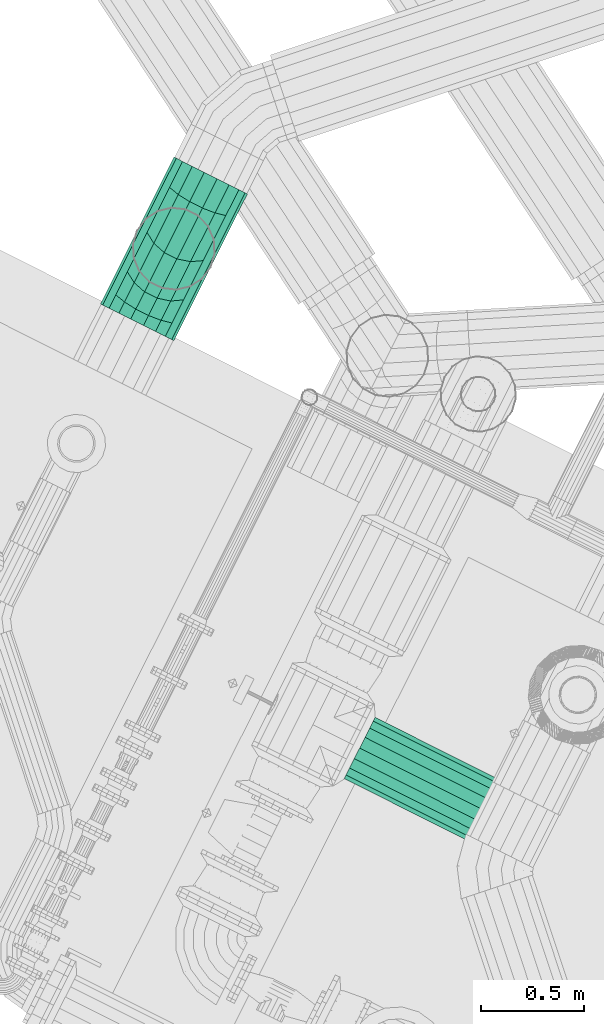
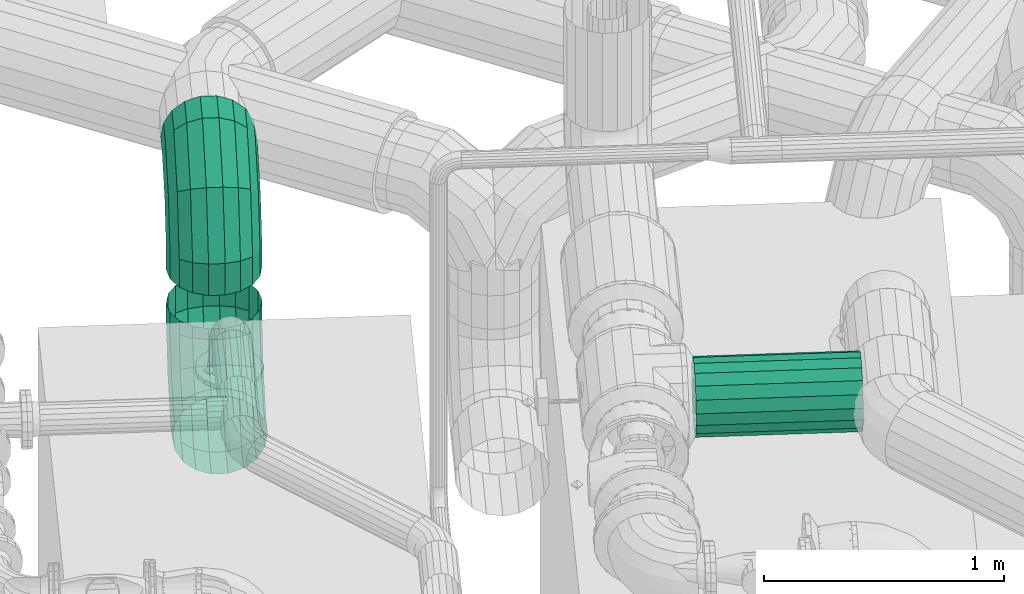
# One storey, part 12 of 206: 2 flow fittings, 1 flow segment.
"""IFC2X3 building model written with IfcOpenShell, lengths in metres."""

from ifc_helpers import new_model, si_unit, derived_unit, direction, frame, origin, place, context, subcontext, project, spatial, face_set, surface_model, source, transform, mapped, material, type_object, type_shapes, element, save


model = new_model("IFC2X3")

# Units and contexts
model_context = context("Model", 3, precision=5.2338327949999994e-05, world=origin(), true_north=direction((0.0, 1.0)))
body_context = subcontext(model_context, "Body", "Model", "MODEL_VIEW")
ifc_project = project(units=[si_unit("LENGTHUNIT", "METRE"), si_unit("AREAUNIT", "SQUARE_METRE"), si_unit("VOLUMEUNIT", "CUBIC_METRE"), si_unit("MASSUNIT", "GRAM", prefix="KILO"), si_unit("PLANEANGLEUNIT", "RADIAN"), derived_unit("THERMALTRANSMITTANCEUNIT", [(si_unit("MASSUNIT", "GRAM", prefix="KILO"), 1), (si_unit("THERMODYNAMICTEMPERATUREUNIT", "KELVIN"), -1), (si_unit("TIMEUNIT", "SECOND"), -3)])], contexts=[model_context])

# Site, building, storey
site_placement = place(None, frame((0.0, 0.0, 0.0), z_axis=(0.0, 0.0, 1.0), x_axis=(0.8939966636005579, -0.4480736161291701, 0.0)))
site = spatial("IfcSite", under=ifc_project, at=site_placement, Name="Default", CompositionType="ELEMENT")
building_placement = place(site_placement, origin())
building = spatial("IfcBuilding", under=site, at=building_placement, CompositionType="ELEMENT")
storey_placement = place(building_placement, origin())
storey = spatial("IfcBuildingStorey", under=building, at=storey_placement, Name="Erdgeschoss", CompositionType="ELEMENT", Elevation=0.0)

# Flow fittings
ifc_material_1 = material(Name="IfcSurfaceStyle #251447")
distribution_element_type_1 = type_object("IfcDistributionElementType", Name="Segmentbogen 4 teilig 278884:Segmentbogen 4 teilig 278884", material=ifc_material_1)
shared_shape_1 = source(origin(), body_context, "Body", "SurfaceModel", [
    surface_model("IfcFaceBasedSurfaceModel", [(21.240947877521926, 8.028208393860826, 1.2800000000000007), (21.25300935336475, 8.028208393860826, 1.3484040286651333), (21.25300935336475, 8.11705926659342, 1.3484040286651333), (21.240947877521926, 8.135388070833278, 1.280000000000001), (21.287738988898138, 8.028208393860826, 1.4085575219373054), (21.287738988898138, 8.10094118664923, 1.4085575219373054), (21.34094787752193, 8.028208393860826, 1.4532050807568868), (21.34094787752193, 8.088977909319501, 1.4532050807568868), (21.406218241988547, 8.028208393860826, 1.476961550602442), (21.406218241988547, 8.082612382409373, 1.476961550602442), (21.475677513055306, 8.028208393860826, 1.4769615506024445), (21.475677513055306, 8.082612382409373, 1.4769615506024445), (21.540947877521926, 8.028208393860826, 1.4532050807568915), (21.540947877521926, 8.088977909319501, 1.4532050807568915), (21.59415676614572, 8.028208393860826, 1.40855752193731), (21.59415676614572, 8.10094118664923, 1.40855752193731), (21.628886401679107, 8.028208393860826, 1.3484040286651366), (21.628886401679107, 8.117059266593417, 1.3484040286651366), (21.640947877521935, 8.028208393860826, 1.2800000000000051), (21.64094787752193, 8.135388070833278, 1.2799999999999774), (21.628886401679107, 8.028208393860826, 1.2115959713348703), (21.628886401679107, 8.153716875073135, 1.2115959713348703), (21.594156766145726, 8.028208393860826, 1.1514424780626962), (21.594156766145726, 8.169834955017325, 1.1514424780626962), (21.540947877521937, 8.028208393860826, 1.106794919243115), (21.540947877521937, 8.181798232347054, 1.106794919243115), (21.475677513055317, 8.028208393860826, 1.0830384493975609), (21.475677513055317, 8.188163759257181, 1.0830384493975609), (21.40621824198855, 8.028208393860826, 1.08303844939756), (21.40621824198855, 8.188163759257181, 1.08303844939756), (21.340947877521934, 8.028208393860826, 1.106794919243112), (21.340947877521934, 8.181798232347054, 1.106794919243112), (21.28773898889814, 8.028208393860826, 1.1514424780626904), (21.28773898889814, 8.169834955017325, 1.1514424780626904), (21.25300935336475, 8.028208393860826, 1.2115959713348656), (21.25300935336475, 8.153716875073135, 1.2115959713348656), (21.253009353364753, 8.270953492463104, 1.4372549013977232), (21.240947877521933, 8.321028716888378, 1.3871796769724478), (21.287738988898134, 8.22691807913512, 1.4812903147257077), (21.34094787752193, 8.19423379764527, 1.5139745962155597), (21.406218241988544, 8.176842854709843, 1.531365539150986), (21.475677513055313, 8.176842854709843, 1.5313655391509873), (21.540947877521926, 8.194233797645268, 1.513974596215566), (21.59415676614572, 8.22691807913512, 1.481290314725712), (21.628886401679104, 8.270953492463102, 1.4372549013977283), (21.64094787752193, 8.321028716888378, 1.3871796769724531), (21.628886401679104, 8.371103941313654, 1.3371044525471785), (21.594156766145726, 8.415139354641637, 1.2930690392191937), (21.540947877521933, 8.447823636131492, 1.2603847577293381), (21.475677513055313, 8.465214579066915, 1.2429938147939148), (21.406218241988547, 8.465214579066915, 1.2429938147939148), (21.340947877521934, 8.447823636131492, 1.2603847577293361), (21.28773898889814, 8.415139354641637, 1.293069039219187), (21.25300935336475, 8.371103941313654, 1.3371044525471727), (21.253009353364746, 8.359804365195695, 1.5911491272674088), (21.240947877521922, 8.42820839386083, 1.572820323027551), (21.287738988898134, 8.29965087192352, 1.607267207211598), (21.340947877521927, 8.255003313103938, 1.6192304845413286), (21.406218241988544, 8.231246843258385, 1.625596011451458), (21.475677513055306, 8.231246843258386, 1.6255960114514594), (21.540947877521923, 8.25500331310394, 1.61923048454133), (21.594156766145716, 8.29965087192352, 1.6072672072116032), (21.628886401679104, 8.359804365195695, 1.5911491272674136), (21.640947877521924, 8.428208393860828, 1.5728203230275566), (21.628886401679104, 8.49661242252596, 1.554491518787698), (21.59415676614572, 8.556765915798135, 1.5383734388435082), (21.540947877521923, 8.601413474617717, 1.5264101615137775), (21.475677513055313, 8.625169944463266, 1.520044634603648), (21.406218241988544, 8.625169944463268, 1.5200446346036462), (21.340947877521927, 8.601413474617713, 1.5264101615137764), (21.287738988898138, 8.556765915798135, 1.5383734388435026), (21.25300935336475, 8.496612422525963, 1.5544915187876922), (21.253009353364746, 8.359804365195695, 1.6799999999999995), (21.240947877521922, 8.428208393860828, 1.6799999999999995), (21.287738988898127, 8.29965087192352, 1.6800000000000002), (21.34094787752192, 8.255003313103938, 1.6800000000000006), (21.406218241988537, 8.231246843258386, 1.6800000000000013), (21.475677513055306, 8.231246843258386, 1.680000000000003), (21.540947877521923, 8.255003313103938, 1.680000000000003), (21.59415676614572, 8.299650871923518, 1.6800000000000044), (21.628886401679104, 8.359804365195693, 1.6800000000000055), (21.640947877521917, 8.428208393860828, 1.6800000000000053), (21.6288864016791, 8.496612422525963, 1.6800000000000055), (21.594156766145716, 8.556765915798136, 1.6800000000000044), (21.540947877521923, 8.601413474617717, 1.680000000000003), (21.475677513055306, 8.625169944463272, 1.680000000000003), (21.406218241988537, 8.62516994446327, 1.6800000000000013), (21.34094787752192, 8.601413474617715, 1.6800000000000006), (21.287738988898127, 8.556765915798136, 1.6800000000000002), (21.253009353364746, 8.496612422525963, 1.6799999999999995)], [face_set([[[0, 1, 2, 3]], [[1, 4, 5, 2]], [[4, 6, 7, 5]], [[6, 8, 9, 7]], [[8, 10, 11, 9]], [[10, 12, 13, 11]], [[12, 14, 15, 13]], [[14, 16, 17, 15]], [[16, 18, 19, 17]], [[18, 20, 21, 19]], [[20, 22, 23, 21]], [[22, 24, 25, 23]], [[24, 26, 27, 25]], [[26, 28, 29, 27]], [[28, 30, 31, 29]], [[30, 32, 33, 31]], [[32, 34, 35, 33]], [[34, 0, 3, 35]], [[3, 2, 36, 37]], [[2, 5, 38, 36]], [[5, 7, 39, 38]], [[7, 9, 40, 39]], [[9, 11, 41, 40]], [[11, 13, 42, 41]], [[13, 15, 43, 42]], [[15, 17, 44, 43]], [[17, 19, 45, 44]], [[19, 21, 46, 45]], [[21, 23, 47, 46]], [[23, 25, 48, 47]], [[25, 27, 49, 48]], [[27, 29, 50, 49]], [[29, 31, 51, 50]], [[31, 33, 52, 51]], [[33, 35, 53, 52]], [[35, 3, 37, 53]], [[37, 36, 54, 55]], [[36, 38, 56, 54]], [[38, 39, 57, 56]], [[39, 40, 58, 57]], [[40, 41, 59, 58]], [[41, 42, 60, 59]], [[42, 43, 61, 60]], [[43, 44, 62, 61]], [[44, 45, 63, 62]], [[45, 46, 64, 63]], [[46, 47, 65, 64]], [[47, 48, 66, 65]], [[48, 49, 67, 66]], [[49, 50, 68, 67]], [[50, 51, 69, 68]], [[51, 52, 70, 69]], [[52, 53, 71, 70]], [[53, 37, 55, 71]], [[55, 54, 72, 73]], [[54, 56, 74, 72]], [[56, 57, 75, 74]], [[57, 58, 76, 75]], [[58, 59, 77, 76]], [[59, 60, 78, 77]], [[60, 61, 79, 78]], [[61, 62, 80, 79]], [[62, 63, 81, 80]], [[63, 64, 82, 81]], [[64, 65, 83, 82]], [[65, 66, 84, 83]], [[66, 67, 85, 84]], [[67, 68, 86, 85]], [[68, 69, 87, 86]], [[69, 70, 88, 87]], [[70, 71, 89, 88]], [[71, 55, 73, 89]]])]),
])
type_shapes(distribution_element_type_1, [shared_shape_1])
flow_fitting_1_placement = place(storey_placement, origin())
element("IfcFlowFitting", 1, at=flow_fitting_1_placement, inside=storey, type_object=distribution_element_type_1, material=ifc_material_1, Name="Segmentbogen 4 teilig", ObjectType="Segmentbogen 4 teilig", context=body_context, shape_type="MappedRepresentation", body=[
    mapped(shared_shape_1, transform((0.0, 0.0, 0.0), scale=1.0)),
])
distribution_element_type_2 = type_object("IfcDistributionElementType", Name="Segmentbogen 4 teilig 297316:Segmentbogen 4 teilig 297316", material=ifc_material_1)
shared_shape_2 = source(origin(), body_context, "Body", "SurfaceModel", [
    surface_model("IfcFaceBasedSurfaceModel", [(21.64094787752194, 8.428208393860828, 1.849999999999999), (21.62888640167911, 8.496612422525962, 1.849999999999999), (21.62888640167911, 8.496612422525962, 1.938850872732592), (21.640947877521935, 8.42820839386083, 1.9571796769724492), (21.594156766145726, 8.556765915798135, 1.849999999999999), (21.594156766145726, 8.556765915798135, 1.9227327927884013), (21.540947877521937, 8.601413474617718, 1.849999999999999), (21.540947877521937, 8.601413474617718, 1.9107695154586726), (21.47567751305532, 8.62516994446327, 1.849999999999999), (21.47567751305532, 8.62516994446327, 1.904403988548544), (21.40621824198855, 8.625169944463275, 1.849999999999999), (21.40621824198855, 8.625169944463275, 1.904403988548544), (21.340947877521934, 8.601413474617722, 1.849999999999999), (21.340947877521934, 8.601413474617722, 1.9107695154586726), (21.28773898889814, 8.556765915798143, 1.849999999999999), (21.28773898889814, 8.556765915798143, 1.9227327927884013), (21.253009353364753, 8.496612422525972, 1.849999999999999), (21.253009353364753, 8.496612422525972, 1.93885087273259), (21.240947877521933, 8.428208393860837, 1.849999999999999), (21.240947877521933, 8.42820839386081, 1.9571796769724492), (21.253009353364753, 8.359804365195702, 1.849999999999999), (21.253009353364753, 8.359804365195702, 1.9755084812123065), (21.287738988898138, 8.299650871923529, 1.849999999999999), (21.287738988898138, 8.299650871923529, 1.9916265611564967), (21.34094787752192, 8.255003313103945, 1.849999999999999), (21.34094787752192, 8.255003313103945, 2.0035898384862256), (21.406218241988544, 8.231246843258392, 1.849999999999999), (21.406218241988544, 8.231246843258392, 2.009955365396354), (21.475677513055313, 8.23124684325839, 1.849999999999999), (21.475677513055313, 8.23124684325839, 2.009955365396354), (21.540947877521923, 8.255003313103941, 1.849999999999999), (21.540947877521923, 8.255003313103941, 2.0035898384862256), (21.59415676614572, 8.29965087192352, 1.849999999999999), (21.59415676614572, 8.29965087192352, 1.9916265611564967), (21.628886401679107, 8.359804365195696, 1.849999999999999), (21.628886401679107, 8.359804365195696, 1.9755084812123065), (21.628886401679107, 8.585463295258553, 2.092745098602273), (21.640947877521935, 8.535388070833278, 2.14282032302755), (21.594156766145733, 8.629498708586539, 2.04870968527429), (21.540947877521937, 8.662182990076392, 2.016025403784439), (21.47567751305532, 8.679573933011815, 1.9986344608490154), (21.406218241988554, 8.679573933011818, 1.9986344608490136), (21.340947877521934, 8.662182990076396, 2.0160254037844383), (21.28773898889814, 8.629498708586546, 2.0487096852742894), (21.253009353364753, 8.585463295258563, 2.0927450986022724), (21.240947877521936, 8.535388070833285, 2.1428203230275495), (21.25300935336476, 8.485312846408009, 2.1928955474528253), (21.287738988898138, 8.441277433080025, 2.23693096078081), (21.34094787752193, 8.40859315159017, 2.2696152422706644), (21.40621824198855, 8.391202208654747, 2.2870061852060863), (21.475677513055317, 8.391202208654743, 2.2870061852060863), (21.540947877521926, 8.408593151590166, 2.2696152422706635), (21.594156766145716, 8.441277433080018, 2.2369309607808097), (21.62888640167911, 8.485312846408, 2.1928955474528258), (21.62888640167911, 8.739357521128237, 2.181595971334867), (21.64094787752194, 8.721028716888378, 2.2499999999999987), (21.594156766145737, 8.755475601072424, 2.1214424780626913), (21.540947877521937, 8.767438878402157, 2.0767949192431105), (21.475677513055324, 8.773804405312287, 2.0530384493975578), (21.406218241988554, 8.773804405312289, 2.0530384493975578), (21.340947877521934, 8.767438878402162, 2.076794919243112), (21.287738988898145, 8.755475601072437, 2.1214424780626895), (21.25300935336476, 8.739357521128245, 2.1815959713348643), (21.240947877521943, 8.721028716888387, 2.2499999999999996), (21.25300935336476, 8.70269991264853, 2.3184040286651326), (21.287738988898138, 8.686581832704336, 2.37855752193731), (21.340947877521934, 8.67461855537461, 2.423205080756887), (21.406218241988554, 8.668253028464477, 2.4469615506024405), (21.47567751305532, 8.668253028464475, 2.446961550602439), (21.540947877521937, 8.674618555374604, 2.4232050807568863), (21.59415676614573, 8.68658183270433, 2.378557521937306), (21.628886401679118, 8.702699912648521, 2.318404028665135), (21.62888640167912, 8.828208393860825, 2.181595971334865), (21.64094787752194, 8.828208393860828, 2.2500000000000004), (21.594156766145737, 8.828208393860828, 2.121442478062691), (21.54094787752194, 8.828208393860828, 2.076794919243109), (21.475677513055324, 8.828208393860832, 2.0530384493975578), (21.406218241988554, 8.828208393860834, 2.0530384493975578), (21.340947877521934, 8.828208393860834, 2.076794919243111), (21.287738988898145, 8.828208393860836, 2.121442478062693), (21.253009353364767, 8.828208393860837, 2.181595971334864), (21.240947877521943, 8.828208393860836, 2.2499999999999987), (21.253009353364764, 8.828208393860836, 2.3184040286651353), (21.287738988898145, 8.828208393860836, 2.3785575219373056), (21.340947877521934, 8.828208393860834, 2.4232050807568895), (21.406218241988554, 8.828208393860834, 2.4469615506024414), (21.475677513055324, 8.828208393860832, 2.4469615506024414), (21.54094787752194, 8.828208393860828, 2.423205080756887), (21.594156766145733, 8.828208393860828, 2.378557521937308), (21.628886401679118, 8.828208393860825, 2.3184040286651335)], [face_set([[[0, 1, 2, 3]], [[1, 4, 5, 2]], [[4, 6, 7, 5]], [[6, 8, 9, 7]], [[8, 10, 11, 9]], [[10, 12, 13, 11]], [[12, 14, 15, 13]], [[14, 16, 17, 15]], [[16, 18, 19, 17]], [[18, 20, 21, 19]], [[20, 22, 23, 21]], [[22, 24, 25, 23]], [[24, 26, 27, 25]], [[26, 28, 29, 27]], [[28, 30, 31, 29]], [[30, 32, 33, 31]], [[32, 34, 35, 33]], [[34, 0, 3, 35]], [[3, 2, 36, 37]], [[2, 5, 38, 36]], [[5, 7, 39, 38]], [[7, 9, 40, 39]], [[9, 11, 41, 40]], [[11, 13, 42, 41]], [[13, 15, 43, 42]], [[15, 17, 44, 43]], [[17, 19, 45, 44]], [[19, 21, 46, 45]], [[21, 23, 47, 46]], [[23, 25, 48, 47]], [[25, 27, 49, 48]], [[27, 29, 50, 49]], [[29, 31, 51, 50]], [[31, 33, 52, 51]], [[33, 35, 53, 52]], [[35, 3, 37, 53]], [[37, 36, 54, 55]], [[36, 38, 56, 54]], [[38, 39, 57, 56]], [[39, 40, 58, 57]], [[40, 41, 59, 58]], [[41, 42, 60, 59]], [[42, 43, 61, 60]], [[43, 44, 62, 61]], [[44, 45, 63, 62]], [[45, 46, 64, 63]], [[46, 47, 65, 64]], [[47, 48, 66, 65]], [[48, 49, 67, 66]], [[49, 50, 68, 67]], [[50, 51, 69, 68]], [[51, 52, 70, 69]], [[52, 53, 71, 70]], [[53, 37, 55, 71]], [[55, 54, 72, 73]], [[54, 56, 74, 72]], [[56, 57, 75, 74]], [[57, 58, 76, 75]], [[58, 59, 77, 76]], [[59, 60, 78, 77]], [[60, 61, 79, 78]], [[61, 62, 80, 79]], [[62, 63, 81, 80]], [[63, 64, 82, 81]], [[64, 65, 83, 82]], [[65, 66, 84, 83]], [[66, 67, 85, 84]], [[67, 68, 86, 85]], [[68, 69, 87, 86]], [[69, 70, 88, 87]], [[70, 71, 89, 88]], [[71, 55, 73, 89]]])]),
])
type_shapes(distribution_element_type_2, [shared_shape_2])
flow_fitting_2_placement = place(storey_placement, origin())
element("IfcFlowFitting", 2, at=flow_fitting_2_placement, inside=storey, type_object=distribution_element_type_2, material=ifc_material_1, Name="Segmentbogen 4 teilig", ObjectType="Segmentbogen 4 teilig", context=body_context, shape_type="MappedRepresentation", body=[
    mapped(shared_shape_2, transform((0.0, 0.0, 0.0), scale=1.0)),
])

# Flow segment
ifc_material_2 = material(Name="IfcSurfaceStyle #9317")
distribution_element_type_3 = type_object("IfcDistributionElementType", Name="Stahlrohr nach DIN 2448 320803:Stahlrohr nach DIN 2448 320803", material=ifc_material_2)
shared_shape_3 = source(origin(), body_context, "Body", "SurfaceModel", [
    surface_model("IfcFaceBasedSurfaceModel", [(23.339853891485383, 6.65896109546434, 2.4238499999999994), (23.339853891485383, 6.635070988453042, 2.419637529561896), (24.03782169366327, 6.635070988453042, 2.419637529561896), (24.03782169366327, 6.658961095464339, 2.423849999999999), (23.339853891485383, 6.614062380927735, 2.4075082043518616), (24.03782169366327, 6.614062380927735, 2.407508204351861), (23.339853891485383, 6.598469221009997, 2.388925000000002), (24.03782169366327, 6.598469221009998, 2.3889250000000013), (23.339853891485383, 6.590172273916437, 2.3661293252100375), (24.03782169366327, 6.590172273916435, 2.366129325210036), (23.339853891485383, 6.590172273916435, 2.341870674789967), (24.03782169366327, 6.590172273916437, 2.3418706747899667), (23.339853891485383, 6.598469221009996, 2.319075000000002), (24.03782169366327, 6.598469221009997, 2.319075), (23.339853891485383, 6.614062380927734, 2.3004917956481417), (24.03782169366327, 6.614062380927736, 2.3004917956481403), (23.339853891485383, 6.63507098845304, 2.2883624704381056), (24.03782169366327, 6.635070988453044, 2.2883624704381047), (23.339853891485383, 6.65896109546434, 2.28415), (24.03782169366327, 6.658961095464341, 2.2841500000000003), (23.339853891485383, 6.682851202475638, 2.288362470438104), (24.03782169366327, 6.682851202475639, 2.2883624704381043), (23.339853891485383, 6.703859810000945, 2.300491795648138), (24.03782169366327, 6.703859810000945, 2.3004917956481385), (23.339853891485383, 6.719452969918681, 2.3190749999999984), (24.03782169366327, 6.7194529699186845, 2.3190749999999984), (23.339853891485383, 6.727749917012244, 2.3418706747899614), (24.03782169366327, 6.727749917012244, 2.3418706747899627), (23.339853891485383, 6.727749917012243, 2.3661293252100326), (24.03782169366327, 6.727749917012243, 2.3661293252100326), (23.339853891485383, 6.719452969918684, 2.388924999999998), (24.03782169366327, 6.719452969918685, 2.388924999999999), (23.339853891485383, 6.703859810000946, 2.407508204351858), (24.03782169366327, 6.703859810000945, 2.407508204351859), (23.339853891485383, 6.6828512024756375, 2.419637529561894), (24.03782169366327, 6.6828512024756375, 2.419637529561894), (23.339853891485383, 6.65896109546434, 2.5238500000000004), (23.339853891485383, 6.60086897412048, 2.5136067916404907), (24.037821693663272, 6.600868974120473, 2.513606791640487), (24.037821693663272, 6.6589610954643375, 2.5238499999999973), (23.339853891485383, 6.549783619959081, 2.4841126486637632), (24.037821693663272, 6.549783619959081, 2.4841126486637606), (23.339853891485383, 6.5118666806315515, 2.4389250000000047), (24.037821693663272, 6.511866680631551, 2.438925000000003), (23.339853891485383, 6.491691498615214, 2.383494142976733), (24.037821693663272, 6.491691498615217, 2.383494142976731), (23.339853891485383, 6.491691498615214, 2.3245058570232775), (24.037821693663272, 6.491691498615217, 2.324505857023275), (23.339853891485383, 6.5118666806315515, 2.269075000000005), (24.037821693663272, 6.511866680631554, 2.2690750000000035), (23.339853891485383, 6.549783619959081, 2.223887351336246), (24.037821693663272, 6.549783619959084, 2.2238873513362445), (23.339853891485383, 6.600868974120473, 2.1943932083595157), (24.037821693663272, 6.600868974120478, 2.1943932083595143), (23.339853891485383, 6.658961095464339, 2.1841500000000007), (24.037821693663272, 6.658961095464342, 2.1841500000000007), (23.339853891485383, 6.717053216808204, 2.1943932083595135), (24.037821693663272, 6.717053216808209, 2.1943932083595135), (23.339853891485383, 6.768138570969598, 2.223887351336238), (24.037821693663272, 6.7681385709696, 2.2238873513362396), (23.339853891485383, 6.806055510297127, 2.269074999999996), (24.037821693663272, 6.806055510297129, 2.2690749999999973), (23.339853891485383, 6.826230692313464, 2.3245058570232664), (24.037821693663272, 6.826230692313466, 2.324505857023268), (23.339853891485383, 6.826230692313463, 2.3834941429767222), (24.037821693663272, 6.826230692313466, 2.383494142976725), (23.339853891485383, 6.806055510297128, 2.4389249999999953), (24.037821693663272, 6.806055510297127, 2.4389249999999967), (23.339853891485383, 6.768138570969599, 2.4841126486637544), (24.037821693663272, 6.768138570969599, 2.484112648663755), (23.339853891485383, 6.717053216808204, 2.513606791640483), (24.037821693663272, 6.717053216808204, 2.5136067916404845)], [face_set([[[0, 1, 2, 3]], [[1, 4, 5, 2]], [[4, 6, 7, 5]], [[6, 8, 9, 7]], [[8, 10, 11, 9]], [[10, 12, 13, 11]], [[12, 14, 15, 13]], [[14, 16, 17, 15]], [[16, 18, 19, 17]], [[18, 20, 21, 19]], [[20, 22, 23, 21]], [[22, 24, 25, 23]], [[24, 26, 27, 25]], [[26, 28, 29, 27]], [[28, 30, 31, 29]], [[30, 32, 33, 31]], [[32, 34, 35, 33]], [[34, 0, 3, 35]], [[36, 37, 38, 39]], [[37, 40, 41, 38]], [[40, 42, 43, 41]], [[42, 44, 45, 43]], [[44, 46, 47, 45]], [[46, 48, 49, 47]], [[48, 50, 51, 49]], [[50, 52, 53, 51]], [[52, 54, 55, 53]], [[54, 56, 57, 55]], [[56, 58, 59, 57]], [[58, 60, 61, 59]], [[60, 62, 63, 61]], [[62, 64, 65, 63]], [[64, 66, 67, 65]], [[66, 68, 69, 67]], [[68, 70, 71, 69]], [[70, 36, 39, 71]]])]),
])
type_shapes(distribution_element_type_3, [shared_shape_3])
flow_segment_placement = place(storey_placement, origin())
element("IfcFlowSegment", 3, at=flow_segment_placement, inside=storey, type_object=distribution_element_type_3, material=ifc_material_2, Name="Stahlrohr nach DIN 2448", ObjectType="Stahlrohr nach DIN 2448", context=body_context, shape_type="MappedRepresentation", body=[
    mapped(shared_shape_3, transform((0.0, 0.0, 0.0), scale=1.0)),
])

save(model, "model.ifc")
